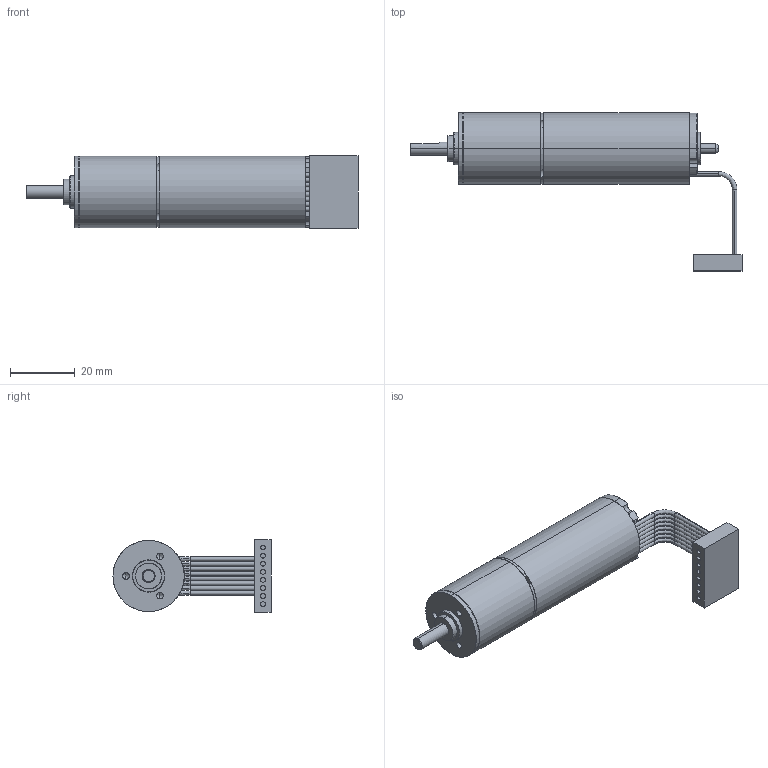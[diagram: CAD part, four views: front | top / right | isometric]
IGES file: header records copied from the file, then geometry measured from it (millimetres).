
Start section: SolidWorks IGES file using analytic representation for surfaces
Global section: file name: \\Uranus\R&D\plans\CATALOGUES\Topstock_Piece_IGES\ECMax22L_+_GP022C 1etage.IGS; native system: SolidWorks 2008; preprocessor: SolidWorks 2008; author: JUL; date: 090326.102603; units: millimetre
Bounding box: 102.5 x 48.8 x 22.4 mm (x, y, z)
Surface area: 10267.2 mm2 (no closed solid volume)
Topology: 0 solids, 0 shells, 206 faces, 2527 edges, 2507 vertices
Faces by surface type: revolution 157, bspline 49
